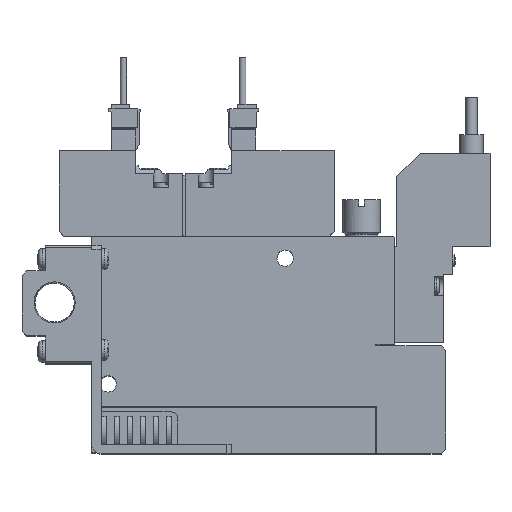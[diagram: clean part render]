
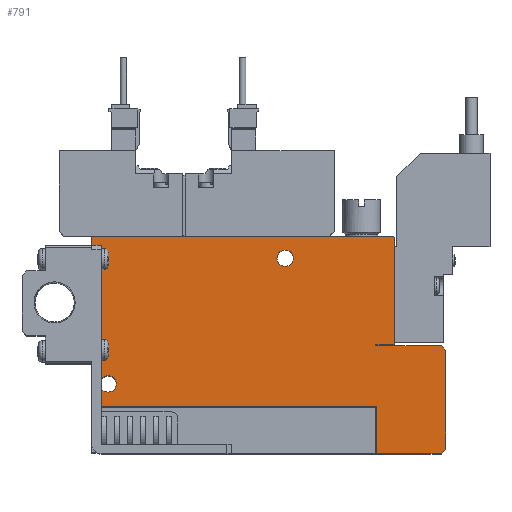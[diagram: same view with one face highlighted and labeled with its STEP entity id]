
A CAD part, top view. The second image highlights one B-rep face of the part: STEP entity #791.
In plain terms, the highlighted planar face has unit normal (0, 0, 1).
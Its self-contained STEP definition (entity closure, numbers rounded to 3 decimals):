
#791=ADVANCED_FACE('',(#1871,#1872,#1873),#1874,.F.);
#1871=FACE_OUTER_BOUND('',#3375,.T.);
#1872=FACE_BOUND('',#3376,.T.);
#1873=FACE_BOUND('',#3377,.T.);
#1874=PLANE('',#3378);
#3375=EDGE_LOOP('',(#7100,#7101,#7102,#7103,#7104,#7105,#7106,#7107,#7108,#7109,#7110,#7111,#7112,#7113));
#3376=EDGE_LOOP('',(#7114));
#3377=EDGE_LOOP('',(#7115));
#3378=AXIS2_PLACEMENT_3D('',#7116,#7117,#7118);
#7100=ORIENTED_EDGE('',*,*,#10214,.T.);
#7101=ORIENTED_EDGE('',*,*,#10481,.F.);
#7102=ORIENTED_EDGE('',*,*,#10482,.F.);
#7103=ORIENTED_EDGE('',*,*,#10472,.T.);
#7104=ORIENTED_EDGE('',*,*,#10299,.T.);
#7105=ORIENTED_EDGE('',*,*,#10435,.T.);
#7106=ORIENTED_EDGE('',*,*,#10483,.T.);
#7107=ORIENTED_EDGE('',*,*,#10477,.T.);
#7108=ORIENTED_EDGE('',*,*,#10484,.T.);
#7109=ORIENTED_EDGE('',*,*,#10485,.T.);
#7110=ORIENTED_EDGE('',*,*,#10486,.T.);
#7111=ORIENTED_EDGE('',*,*,#10487,.T.);
#7112=ORIENTED_EDGE('',*,*,#10488,.T.);
#7113=ORIENTED_EDGE('',*,*,#10489,.T.);
#7114=ORIENTED_EDGE('',*,*,#10440,.F.);
#7115=ORIENTED_EDGE('',*,*,#10397,.F.);
#7116=CARTESIAN_POINT('',(0.0,0.0,5.0));
#7117=DIRECTION('',(0.0,0.0,-1.0));
#7118=DIRECTION('',(0.0,-1.0,0.0));
#10214=EDGE_CURVE('',#12417,#12415,#12418,.T.);
#10299=EDGE_CURVE('',#12580,#12578,#12581,.T.);
#10397=EDGE_CURVE('',#12749,#12749,#12750,.T.);
#10435=EDGE_CURVE('',#12578,#12812,#12814,.T.);
#10440=EDGE_CURVE('',#12821,#12821,#12822,.T.);
#10472=EDGE_CURVE('',#12872,#12580,#12875,.T.);
#10477=EDGE_CURVE('',#12885,#12883,#12886,.T.);
#10481=EDGE_CURVE('',#12891,#12415,#12892,.T.);
#10482=EDGE_CURVE('',#12872,#12891,#12893,.T.);
#10483=EDGE_CURVE('',#12812,#12885,#12894,.T.);
#10484=EDGE_CURVE('',#12883,#12895,#12896,.T.);
#10485=EDGE_CURVE('',#12895,#12897,#12898,.T.);
#10486=EDGE_CURVE('',#12897,#12899,#12900,.T.);
#10487=EDGE_CURVE('',#12899,#12901,#12902,.T.);
#10488=EDGE_CURVE('',#12901,#12903,#12904,.T.);
#10489=EDGE_CURVE('',#12903,#12417,#12905,.T.);
#12415=VERTEX_POINT('',#16081);
#12417=VERTEX_POINT('',#16084);
#12418=LINE('',#16085,#16086);
#12578=VERTEX_POINT('',#16365);
#12580=VERTEX_POINT('',#16368);
#12581=LINE('',#16369,#16370);
#12749=VERTEX_POINT('',#16692);
#12750=CIRCLE('',#16693,1.75);
#12812=VERTEX_POINT('',#16791);
#12814=LINE('',#16794,#16795);
#12821=VERTEX_POINT('',#16805);
#12822=CIRCLE('',#16806,1.75);
#12872=VERTEX_POINT('',#16874);
#12875=LINE('',#16879,#16880);
#12883=VERTEX_POINT('',#16889);
#12885=VERTEX_POINT('',#16892);
#12886=LINE('',#16893,#16894);
#12891=VERTEX_POINT('',#16901);
#12892=LINE('',#16902,#16903);
#12893=LINE('',#16904,#16905);
#12894=LINE('',#16906,#16907);
#12895=VERTEX_POINT('',#16908);
#12896=LINE('',#16909,#16910);
#12897=VERTEX_POINT('',#16911);
#12898=LINE('',#16912,#16913);
#12899=VERTEX_POINT('',#16914);
#12900=LINE('',#16915,#16916);
#12901=VERTEX_POINT('',#16917);
#12902=LINE('',#16918,#16919);
#12903=VERTEX_POINT('',#16920);
#12904=LINE('',#16921,#16922);
#12905=LINE('',#16923,#16924);
#16081=CARTESIAN_POINT('',(0.0,10.1,5.0));
#16084=CARTESIAN_POINT('',(0.0,46.4,5.0));
#16085=CARTESIAN_POINT('',(0.0,46.4,5.0));
#16086=VECTOR('',#20043,1.0);
#16365=CARTESIAN_POINT('',(76.0,1.0,5.0));
#16368=CARTESIAN_POINT('',(75.0,0.0,5.0));
#16369=CARTESIAN_POINT('',(75.0,0.0,5.0));
#16370=VECTOR('',#20167,1.0);
#16692=CARTESIAN_POINT('',(43.25,42.0,5.0));
#16693=AXIS2_PLACEMENT_3D('',#20296,#20297,#20298);
#16791=CARTESIAN_POINT('',(76.0,22.25,5.0));
#16794=CARTESIAN_POINT('',(76.0,1.0,5.0));
#16795=VECTOR('',#20336,1.0);
#16805=CARTESIAN_POINT('',(5.25,15.0,5.0));
#16806=AXIS2_PLACEMENT_3D('',#20343,#20344,#20345);
#16874=CARTESIAN_POINT('',(61.1,0.0,5.0));
#16879=CARTESIAN_POINT('',(0.0,0.0,5.0));
#16880=VECTOR('',#20399,1.0);
#16889=CARTESIAN_POINT('',(61.0,23.25,5.0));
#16892=CARTESIAN_POINT('',(75.0,23.25,5.0));
#16893=CARTESIAN_POINT('',(75.0,23.25,5.0));
#16894=VECTOR('',#20408,1.0);
#16901=CARTESIAN_POINT('',(61.1,10.1,5.0));
#16902=CARTESIAN_POINT('',(61.1,10.1,5.0));
#16903=VECTOR('',#20414,1.0);
#16904=CARTESIAN_POINT('',(61.1,0.0,5.0));
#16905=VECTOR('',#20415,1.0);
#16906=CARTESIAN_POINT('',(76.0,22.25,5.0));
#16907=VECTOR('',#20416,1.0);
#16908=CARTESIAN_POINT('',(61.0,23.5,5.0));
#16909=CARTESIAN_POINT('',(61.0,23.25,5.0));
#16910=VECTOR('',#20417,1.0);
#16911=CARTESIAN_POINT('',(65.0,23.5,5.0));
#16912=CARTESIAN_POINT('',(61.0,23.5,5.0));
#16913=VECTOR('',#20418,1.0);
#16914=CARTESIAN_POINT('',(65.0,46.4,5.0));
#16915=CARTESIAN_POINT('',(65.0,23.5,5.0));
#16916=VECTOR('',#20419,1.0);
#16917=CARTESIAN_POINT('',(64.8,46.6,5.0));
#16918=CARTESIAN_POINT('',(65.0,46.4,5.0));
#16919=VECTOR('',#20420,1.0);
#16920=CARTESIAN_POINT('',(0.2,46.6,5.0));
#16921=CARTESIAN_POINT('',(64.8,46.6,5.0));
#16922=VECTOR('',#20421,1.0);
#16923=CARTESIAN_POINT('',(0.2,46.6,5.0));
#16924=VECTOR('',#20422,1.0);
#20043=DIRECTION('',(0.0,-1.0,0.0));
#20167=DIRECTION('',(0.707,0.707,0.0));
#20296=CARTESIAN_POINT('',(41.5,42.0,5.0));
#20297=DIRECTION('',(0.0,0.0,1.0));
#20298=DIRECTION('',(1.0,0.0,0.0));
#20336=DIRECTION('',(0.0,1.0,0.0));
#20343=CARTESIAN_POINT('',(3.5,15.0,5.0));
#20344=DIRECTION('',(0.0,0.0,1.0));
#20345=DIRECTION('',(1.0,0.0,0.0));
#20399=DIRECTION('',(1.0,0.0,0.0));
#20408=DIRECTION('',(-1.0,0.0,0.0));
#20414=DIRECTION('',(-1.0,0.0,0.0));
#20415=DIRECTION('',(0.0,1.0,0.0));
#20416=DIRECTION('',(-0.707,0.707,0.0));
#20417=DIRECTION('',(0.0,1.0,0.0));
#20418=DIRECTION('',(1.0,0.,0.0));
#20419=DIRECTION('',(0.0,1.0,0.0));
#20420=DIRECTION('',(-0.707,0.707,0.0));
#20421=DIRECTION('',(-1.0,0.0,0.0));
#20422=DIRECTION('',(-0.707,-0.707,0.0));
